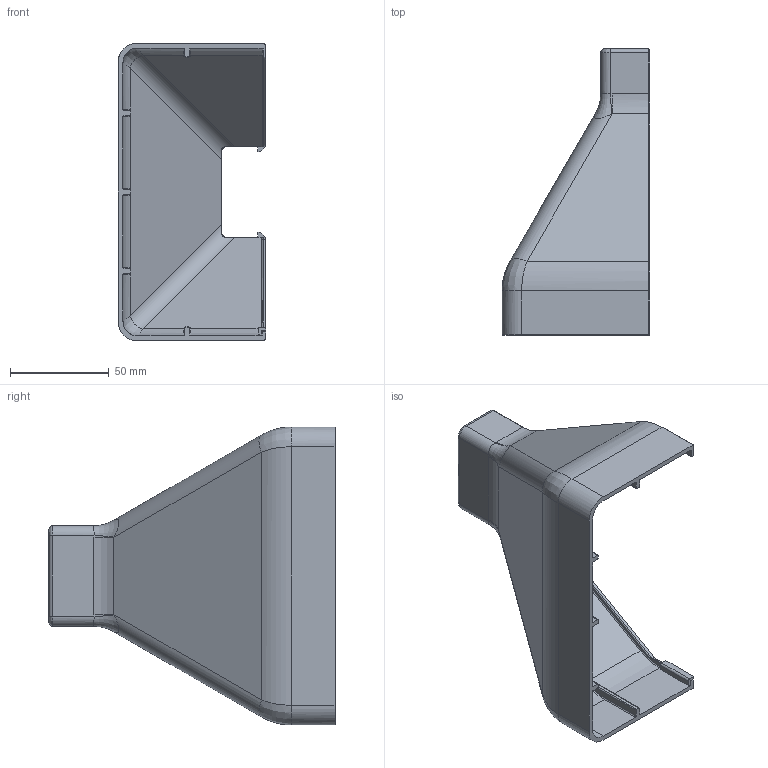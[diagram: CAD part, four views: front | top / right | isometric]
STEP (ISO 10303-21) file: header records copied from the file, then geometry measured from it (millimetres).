
FILE_DESCRIPTION (( 'STEP AP214' ), '1' );
FILE_NAME ('1.5043 Lattiakiinnikkeen 45 päätysuoja.STEP', '2025-09-16T09:57:58', ( '' ), ( '' ), 'SwSTEP 2.0', 'SolidWorks 2025', '' );
FILE_SCHEMA (( 'AUTOMOTIVE_DESIGN' ));
Length unit declared in the file: millimetre
Products named in the file (1): 1.5043 Lattiakiinnikkeen 45 päätysuoja
Bounding box: 75 x 145 x 151 mm (x, y, z)
Volume: 79028.4 mm3; surface area: 65145.8 mm2
Topology: 2 solids, 2 shells, 214 faces, 578 edges, 369 vertices
Faces by surface type: plane 80, cylinder 76, bspline 58
Entity records: 12275 total; most frequent: CARTESIAN_POINT 7352, ORIENTED_EDGE 1154, DIRECTION 818, EDGE_CURVE 577, VERTEX_POINT 369, VECTOR 280, LINE 280, AXIS2_PLACEMENT_3D 269
